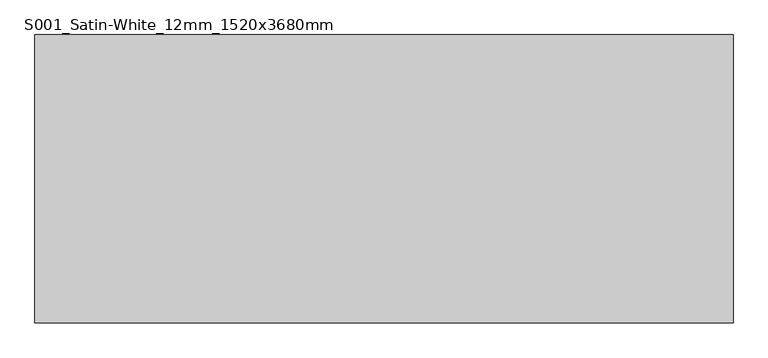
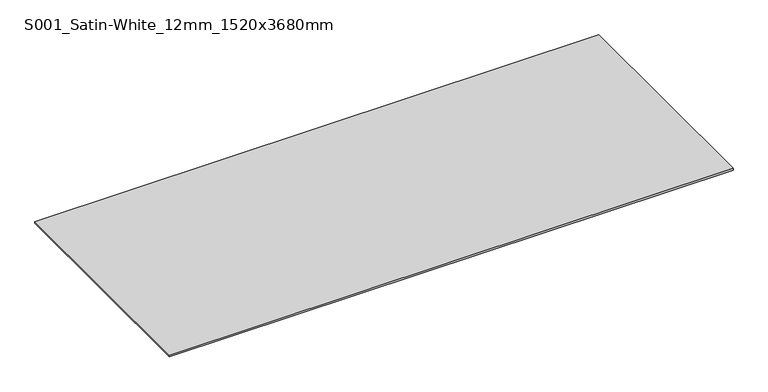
"""IFC4 building model written with IfcOpenShell, lengths in millimetres: proxy geometry, Kitchen_Counter-Tops_Indoor-Material_HI-MACS_Solids : S001_Satin-White_12mm_1520x3680mm."""

from ifc_helpers import new_model, si_unit, origin, origin_with_axes, place, context, project, spatial, polyline, outline, extrude, source, transform, mapped, element, save


def s001_satin_white_12mm_1520x3680mm_bc4f7f2a(model_context):
    return source(origin(), model_context, "Body", "SweptSolid", [
        extrude(outline(polyline([(1840.0, 760.0), (1840.0, -760.0), (-1840.0, -760.0), (-1840.0, 760.0), (1840.0, 760.0)])), origin_with_axes(), (0.0, 0.0, 1.0), 12.0),
    ])


if __name__ == "__main__":
    model = new_model("IFC4")
    model_context = context("Model", 3, world=origin())
    ifc_project = project(units=[si_unit("LENGTHUNIT", "METRE", prefix="MILLI")], contexts=[model_context])
    site = spatial("IfcSite", under=ifc_project)
    building = spatial("IfcBuilding", under=site)
    placement = place(None, origin())
    s001_satin_white_12mm_1520x3680mm_shape = s001_satin_white_12mm_1520x3680mm_bc4f7f2a(model_context)
    element("IfcBuildingElementProxy", 1, Name="Kitchen_Counter-Tops_Indoor-Material_HI-MACS_Solids : S001_Satin-White_12mm_1520x3680mm", ObjectType="Kitchen_Counter-Tops_Indoor-Material_HI-MACS_Solids : S001_Satin-White_12mm_1520x3680mm", at=placement, inside=building, context=model_context, shape_type="MappedRepresentation", body=[
        mapped(s001_satin_white_12mm_1520x3680mm_shape, transform((0.0, 0.0, 0.0), x_axis=(1.0, 0.0, 0.0), y_axis=(0.0, 1.0, 0.0), z_axis=(0.0, 0.0, 1.0))),
    ])
    save(model, "model.ifc")
